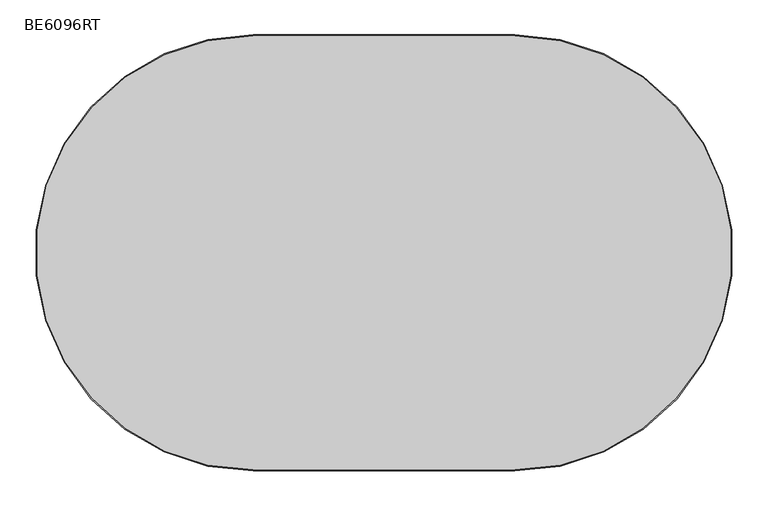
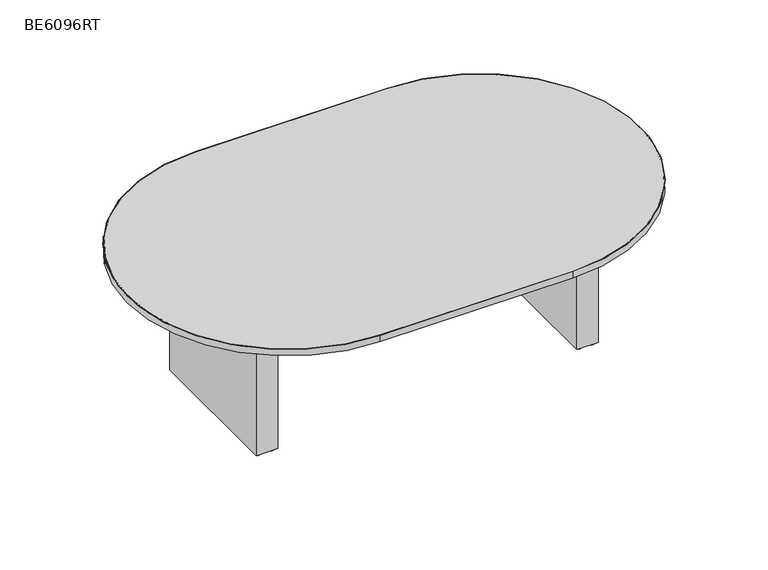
"""IFC4 building model written with IfcOpenShell, lengths in millimetres: furniture geometry, ERG-Beta-Conference_Table-Racetrack : BE6096RT."""

import ifcopenshell
import ifcopenshell.guid

model = None  # the IFC model being written
_history = None  # IfcOwnerHistory: only IFC2X3 demands one
_inside = {}  # id of a spatial element -> (the spatial element, [elements in it])
_under = {}  # id of a project, library or spatial element -> (it, [spatial elements below it])
_declared = {}  # id of a project -> (the project, [libraries it declares])
_typed = {}  # id of a type object -> (the type object, [elements of that type])
_made_of = {}  # id of a material, layer set ... -> (it, [elements and type objects made of it])


def new_model(schema):
    """Start an empty IFC model of exactly this schema.

    Asked for "IFC4X3", IfcOpenShell would pick the latest addendum, in which some entities
    have other attributes; the version numbers below select the first issue.
    IFC2X3 requires an IfcOwnerHistory on every rooted entity: one is made here for all.
    """
    global model, _history
    if schema == "IFC4X3":
        model = ifcopenshell.file(schema_version=(4, 3, 0, 0))
    else:
        model = ifcopenshell.file(schema=schema)
    _inside.clear()
    _under.clear()
    _declared.clear()
    _typed.clear()
    _made_of.clear()
    _history = None
    if model.schema == "IFC2X3":
        org = make("IfcOrganization", Name="unknown")
        user = make(
            "IfcPersonAndOrganization",
            ThePerson=make("IfcPerson", FamilyName="unknown"),
            TheOrganization=org,
        )
        app = make(
            "IfcApplication",
            ApplicationDeveloper=org,
            Version="unknown",
            ApplicationFullName="unknown",
            ApplicationIdentifier="unknown",
        )
        _history = make(
            "IfcOwnerHistory",
            OwningUser=user,
            OwningApplication=app,
            ChangeAction="ADDED",
            CreationDate=0,
        )
    return model


def make(cls, **values):
    """One entity of the class cls with the attributes given. An attribute that is None is left unset."""
    return model.create_entity(
        cls, **{name: value for name, value in values.items() if value is not None}
    )


def rooted(cls, **values):
    """An entity with a GlobalId (a new one), such as an element, a storey or a relation."""
    return make(cls, GlobalId=ifcopenshell.guid.new(), OwnerHistory=_history, **values)


def si_unit(unit_type, name, prefix=None):
    """IfcSIUnit, for example si_unit("LENGTHUNIT", "METRE", prefix="MILLI")."""
    return make("IfcSIUnit", UnitType=unit_type, Prefix=prefix, Name=name)


def assignment(units):
    """IfcUnitAssignment: the units of a project."""
    return None if units is None else make("IfcUnitAssignment", Units=units)


def point(xyz):
    """IfcCartesianPoint."""
    return None if xyz is None else make("IfcCartesianPoint", Coordinates=xyz)


def direction(xyz):
    """IfcDirection."""
    return None if xyz is None else make("IfcDirection", DirectionRatios=xyz)


def frame(location, z_axis=None, x_axis=None):
    """IfcAxis2Placement3D, a coordinate frame: its origin and axes. An axis left out is left unset."""
    return make(
        "IfcAxis2Placement3D",
        Location=point(location),
        Axis=direction(z_axis),
        RefDirection=direction(x_axis),
    )


def frame_2d(location, x_axis=None):
    """IfcAxis2Placement2D, a coordinate frame in the plane: its origin and x axis."""
    return make(
        "IfcAxis2Placement2D", Location=point(location), RefDirection=direction(x_axis)
    )


def origin():
    """The frame at (0, 0, 0) with its axes left unset."""
    return frame((0.0, 0.0, 0.0))


def origin_with_axes():
    """The frame at (0, 0, 0) with the z axis (0, 0, 1) and the x axis (1, 0, 0) written out."""
    return frame((0.0, 0.0, 0.0), z_axis=(0.0, 0.0, 1.0), x_axis=(1.0, 0.0, 0.0))


def place(relative_to, where):
    """IfcLocalPlacement: puts the frame where relative to a parent placement (None: the world)."""
    return make(
        "IfcLocalPlacement", PlacementRelTo=relative_to, RelativePlacement=where
    )


def context(
    kind, dimensions, precision=None, world=None, true_north=None, identifier=None
):
    """IfcGeometricRepresentationContext, for example the 3D "Model" context."""
    return make(
        "IfcGeometricRepresentationContext",
        ContextIdentifier=identifier,
        ContextType=kind,
        CoordinateSpaceDimension=dimensions,
        Precision=precision,
        WorldCoordinateSystem=world,
        TrueNorth=true_north,
    )


def project(units=None, contexts=None):
    """IfcProject with its units and contexts."""
    return rooted(
        "IfcProject",
        Name="project",
        RepresentationContexts=contexts,
        UnitsInContext=assignment(units),
    )


def spatial(cls, under=None, at=None, **own):
    """A site, building, storey or space (cls), placed at a placement, below another one or the project."""
    s = rooted(cls, ObjectPlacement=at, **own)
    if under is not None:
        _under.setdefault(under.id(), (under, []))[1].append(s)
    return s


def polyline(points):
    """IfcPolyline through the points."""
    return make("IfcPolyline", Points=[point(p) for p in points])


def circle_curve(where, radius):
    """IfcCircle in the frame where."""
    return make("IfcCircle", Position=where, Radius=radius)


def trimmed(basis, trim1, trim2, sense, master):
    """IfcTrimmedCurve: the piece of a basis curve between two trims."""
    return make(
        "IfcTrimmedCurve",
        BasisCurve=basis,
        Trim1=trim1,
        Trim2=trim2,
        SenseAgreement=sense,
        MasterRepresentation=master,
    )


def segment(curve, same_sense, transition):
    """IfcCompositeCurveSegment."""
    return make(
        "IfcCompositeCurveSegment",
        Transition=transition,
        SameSense=same_sense,
        ParentCurve=curve,
    )


def composite_curve(segments, self_intersect=None):
    """IfcCompositeCurve: segments joined end to end."""
    return make("IfcCompositeCurve", Segments=segments, SelfIntersect=self_intersect)


def outline(outer, holes=None, kind="AREA"):
    """IfcArbitraryClosedProfileDef: a profile drawn as a closed curve; with holes, ...WithVoids."""
    if holes is None:
        return make("IfcArbitraryClosedProfileDef", ProfileType=kind, OuterCurve=outer)
    return make(
        "IfcArbitraryProfileDefWithVoids",
        ProfileType=kind,
        OuterCurve=outer,
        InnerCurves=holes,
    )


def extrude(swept, where, along, depth):
    """IfcExtrudedAreaSolid: the profile swept, set in the frame where, extruded along a direction by depth."""
    return make(
        "IfcExtrudedAreaSolid",
        SweptArea=swept,
        Position=where,
        ExtrudedDirection=direction(along),
        Depth=depth,
    )


def shape(context_of_items, identifier, shape_type, items):
    """IfcShapeRepresentation: the items that make up one representation, for example the "Body"."""
    return make(
        "IfcShapeRepresentation",
        ContextOfItems=context_of_items,
        RepresentationIdentifier=identifier,
        RepresentationType=shape_type,
        Items=items,
    )


def source(mapping_origin, context_of_items, identifier, shape_type, items):
    """IfcRepresentationMap: a shape defined once, which mapped items show again and again."""
    return make(
        "IfcRepresentationMap",
        MappingOrigin=mapping_origin,
        MappedRepresentation=shape(context_of_items, identifier, shape_type, items),
    )


def transform(
    local_origin,
    x_axis=None,
    y_axis=None,
    z_axis=None,
    scale=None,
    scale2=None,
    scale3=None,
    uniform=True,
):
    """IfcCartesianTransformationOperator3D, or its non-uniform kind. x_axis, y_axis, z_axis: its Axis1, 2, 3."""
    if uniform:
        return make(
            "IfcCartesianTransformationOperator3D",
            Axis1=direction(x_axis),
            Axis2=direction(y_axis),
            LocalOrigin=point(local_origin),
            Scale=scale,
            Axis3=direction(z_axis),
        )
    return make(
        "IfcCartesianTransformationOperator3DnonUniform",
        Axis1=direction(x_axis),
        Axis2=direction(y_axis),
        LocalOrigin=point(local_origin),
        Scale=scale,
        Axis3=direction(z_axis),
        Scale2=scale2,
        Scale3=scale3,
    )


def mapped(mapping_source, mapping_target):
    """IfcMappedItem: shows the shape of a source again, moved by a transform."""
    return make(
        "IfcMappedItem", MappingSource=mapping_source, MappingTarget=mapping_target
    )


def made_of(thing, what):
    """Note that an element or type object is made of a material, layer set ...; save() writes the relation."""
    if what is not None:
        _made_of.setdefault(what.id(), (what, []))[1].append(thing)
    return thing


def element(
    cls,
    number,
    at=None,
    inside=None,
    cuts=None,
    type_object=None,
    material=None,
    context=None,
    identifier="Body",
    shape_type=None,
    held_by="IfcProductDefinitionShape",
    body=None,
    shapes=None,
    **own,
):
    """One element of the class cls, such as IfcWall. Its Tag is "e" and its number.

    at: its placement. inside: the storey or other place that contains it. cuts: it is an
    opening in that element (IfcRelVoidsElement). A single representation is given by context,
    identifier, shape_type and body (its items); several are given by shapes. held_by: the class
    of the entity that holds the representations. save() writes the other relations.
    """
    e = rooted(cls, Tag="e%d" % number, ObjectPlacement=at, **own)
    if body is not None:
        shapes = [shape(context, identifier, shape_type, body)]
    if shapes is not None:
        e.Representation = make(held_by, Representations=shapes)
    if inside is not None:
        _inside.setdefault(inside.id(), (inside, []))[1].append(e)
    if cuts is not None:
        rooted(
            "IfcRelVoidsElement", RelatingBuildingElement=cuts, RelatedOpeningElement=e
        )
    if type_object is not None:
        _typed.setdefault(type_object.id(), (type_object, []))[1].append(e)
    return made_of(e, material)


def aggregate(whole, parts):
    """IfcRelAggregates: a whole, such as a stair, and the parts it consists of."""
    return rooted("IfcRelAggregates", RelatingObject=whole, RelatedObjects=parts)


def save(model, path):
    """Write the relations noted so far, then the file.

    IfcRelAggregates (storeys below a building ...), IfcRelContainedInSpatialStructure (elements
    in a storey), IfcRelDefinesByType, IfcRelAssociatesMaterial and IfcRelDeclares: one each for
    every whole, place, type object, material and project.
    """
    for whole, parts in _under.values():
        aggregate(whole, parts)
    for where, things in _inside.values():
        rooted(
            "IfcRelContainedInSpatialStructure",
            RelatedElements=things,
            RelatingStructure=where,
        )
    for kind, things in _typed.values():
        rooted("IfcRelDefinesByType", RelatedObjects=things, RelatingType=kind)
    for what, things in _made_of.values():
        rooted("IfcRelAssociatesMaterial", RelatedObjects=things, RelatingMaterial=what)
    for by, libraries in _declared.values():
        rooted("IfcRelDeclares", RelatingContext=by, RelatedDefinitions=libraries)
    model.write(path)


def be6096rt_4beb3adf(model_context):
    return source(origin(), model_context, "Body", "SweptSolid", [
        extrude(outline(composite_curve([segment(trimmed(circle_curve(frame_2d((1273.175, 390.276527)), 9.525), [point((1263.65, 390.276527))], [point((1282.7, 390.276527))], False, "CARTESIAN"), True, "CONTINUOUS"), segment(trimmed(circle_curve(frame_2d((1273.175, 390.276527)), 9.525), [point((1282.7, 390.276527))], [point((1263.65, 390.276527))], False, "CARTESIAN"), True, "CONTINUOUS")], self_intersect=False)), origin_with_axes(), (0.0, 0.0, 1.0), 9.525),
        extrude(outline(composite_curve([segment(trimmed(circle_curve(frame_2d((1336.675, 390.276527)), 9.525), [point((1327.15, 390.276527))], [point((1346.2, 390.276527))], False, "CARTESIAN"), True, "CONTINUOUS"), segment(trimmed(circle_curve(frame_2d((1336.675, 390.276527)), 9.525), [point((1346.2, 390.276527))], [point((1327.15, 390.276527))], False, "CARTESIAN"), True, "CONTINUOUS")], self_intersect=False)), origin_with_axes(), (0.0, 0.0, 1.0), 9.525),
        extrude(outline(composite_curve([segment(trimmed(circle_curve(frame_2d((1273.175, -282.823473)), 9.525), [point((1263.65, -282.823473))], [point((1282.7, -282.823473))], False, "CARTESIAN"), True, "CONTINUOUS"), segment(trimmed(circle_curve(frame_2d((1273.175, -282.823473)), 9.525), [point((1282.7, -282.823473))], [point((1263.65, -282.823473))], False, "CARTESIAN"), True, "CONTINUOUS")], self_intersect=False)), origin_with_axes(), (0.0, 0.0, 1.0), 9.525),
        extrude(outline(composite_curve([segment(trimmed(circle_curve(frame_2d((1336.675, -282.823473)), 9.525), [point((1327.15, -282.823473))], [point((1346.2, -282.823473))], False, "CARTESIAN"), True, "CONTINUOUS"), segment(trimmed(circle_curve(frame_2d((1336.675, -282.823473)), 9.525), [point((1346.2, -282.823473))], [point((1327.15, -282.823473))], False, "CARTESIAN"), True, "CONTINUOUS")], self_intersect=False)), origin_with_axes(), (0.0, 0.0, 1.0), 9.525),
        extrude(outline(polyline([(1355.725, 409.326527), (1355.725, -301.873473), (1254.125, -301.873473), (1254.125, 409.326527), (1355.725, 409.326527)])), frame((0.0, 0.0, 9.525), z_axis=(0.0, 0.0, 1.0), x_axis=(1.0, 0.0, 0.0)), (0.0, 0.0, 1.0), 695.3249758),
        extrude(outline(composite_curve([segment(trimmed(circle_curve(frame_2d((-250.825, 390.276527)), 9.525), [point((-260.35, 390.276527))], [point((-241.3, 390.276527))], False, "CARTESIAN"), True, "CONTINUOUS"), segment(trimmed(circle_curve(frame_2d((-250.825, 390.276527)), 9.525), [point((-241.3, 390.276527))], [point((-260.35, 390.276527))], False, "CARTESIAN"), True, "CONTINUOUS")], self_intersect=False)), origin_with_axes(), (0.0, 0.0, 1.0), 9.525),
        extrude(outline(composite_curve([segment(trimmed(circle_curve(frame_2d((-187.325, 390.276527)), 9.525), [point((-196.85, 390.276527))], [point((-177.8, 390.276527))], False, "CARTESIAN"), True, "CONTINUOUS"), segment(trimmed(circle_curve(frame_2d((-187.325, 390.276527)), 9.525), [point((-177.8, 390.276527))], [point((-196.85, 390.276527))], False, "CARTESIAN"), True, "CONTINUOUS")], self_intersect=False)), origin_with_axes(), (0.0, 0.0, 1.0), 9.525),
        extrude(outline(composite_curve([segment(trimmed(circle_curve(frame_2d((-250.825, -282.823473)), 9.525), [point((-260.35, -282.823473))], [point((-241.3, -282.823473))], False, "CARTESIAN"), True, "CONTINUOUS"), segment(trimmed(circle_curve(frame_2d((-250.825, -282.823473)), 9.525), [point((-241.3, -282.823473))], [point((-260.35, -282.823473))], False, "CARTESIAN"), True, "CONTINUOUS")], self_intersect=False)), origin_with_axes(), (0.0, 0.0, 1.0), 9.525),
        extrude(outline(composite_curve([segment(trimmed(circle_curve(frame_2d((-187.325, -282.823473)), 9.525), [point((-196.85, -282.823473))], [point((-177.8, -282.823473))], False, "CARTESIAN"), True, "CONTINUOUS"), segment(trimmed(circle_curve(frame_2d((-187.325, -282.823473)), 9.525), [point((-177.8, -282.823473))], [point((-196.85, -282.823473))], False, "CARTESIAN"), True, "CONTINUOUS")], self_intersect=False)), origin_with_axes(), (0.0, 0.0, 1.0), 9.525),
        extrude(outline(polyline([(-168.275, 409.326527), (-168.275, -301.873473), (-269.875, -301.873473), (-269.875, 409.326527), (-168.275, 409.326527)])), frame((0.0, 0.0, 9.525), z_axis=(0.0, 0.0, 1.0), x_axis=(1.0, 0.0, 0.0)), (0.0, 0.0, 1.0), 695.3249758),
        extrude(outline(composite_curve([segment(polyline([(1000.125, -705.098473), (85.725, -705.098473)]), True, "CONTINUOUS"), segment(trimmed(circle_curve(frame_2d((85.725, 53.726527)), 758.825), [point((85.725, -705.098473))], [point((85.725, 812.551527))], False, "CARTESIAN"), True, "CONTINUOUS"), segment(polyline([(85.725, 812.551527), (1000.125, 812.551527)]), True, "CONTINUOUS"), segment(trimmed(circle_curve(frame_2d((1000.125, 53.726527)), 758.825), [point((1000.125, 812.551527))], [point((1000.125, -705.098473))], False, "CARTESIAN"), True, "CONTINUOUS")], self_intersect=False)), frame((0.0, 0.0, 704.85), z_axis=(0.0, 0.0, 1.0), x_axis=(1.0, 0.0, 0.0)), (0.0, 0.0, 1.0), 31.75),
        extrude(outline(composite_curve([segment(polyline([(85.725, 815.726527), (1000.125, 815.726527)]), True, "CONTINUOUS"), segment(trimmed(circle_curve(frame_2d((1000.125, 53.726527)), 762.0), [point((1000.125, 815.726527))], [point((1000.125, -708.273473))], False, "CARTESIAN"), True, "CONTINUOUS"), segment(polyline([(1000.125, -708.273473), (85.725, -708.273473)]), True, "CONTINUOUS"), segment(trimmed(circle_curve(frame_2d((85.725, 53.726527)), 762.0), [point((85.725, -708.273473))], [point((85.725, 815.726527))], False, "CARTESIAN"), True, "CONTINUOUS")], self_intersect=False), holes=[composite_curve([segment(trimmed(circle_curve(frame_2d((85.725, 53.726527)), 758.825), [point((85.725, 812.551527))], [point((85.725, -705.098473))], True, "CARTESIAN"), True, "CONTINUOUS"), segment(polyline([(85.725, -705.098473), (1000.125, -705.098473)]), True, "CONTINUOUS"), segment(trimmed(circle_curve(frame_2d((1000.125, 53.726527)), 758.825), [point((1000.125, -705.098473))], [point((1000.125, 812.551527))], True, "CARTESIAN"), True, "CONTINUOUS"), segment(polyline([(1000.125, 812.551527), (85.725, 812.551527)]), True, "CONTINUOUS")], self_intersect=False)]), frame((0.0, 0.0, 704.85), z_axis=(0.0, 0.0, 1.0), x_axis=(1.0, 0.0, 0.0)), (0.0, 0.0, 1.0), 31.75),
    ])


if __name__ == "__main__":
    model = new_model("IFC4")
    model_context = context("Model", 3, world=origin())
    ifc_project = project(units=[si_unit("LENGTHUNIT", "METRE", prefix="MILLI")], contexts=[model_context])
    site = spatial("IfcSite", under=ifc_project)
    building = spatial("IfcBuilding", under=site)
    placement = place(None, origin())
    be6096rt_shape = be6096rt_4beb3adf(model_context)
    element("IfcFurniture", 1, ObjectType="ERG-Beta-Conference_Table-Racetrack : BE6096RT", at=placement, inside=building, context=model_context, shape_type="MappedRepresentation", body=[
        mapped(be6096rt_shape, transform((0.0, 0.0, 0.0), x_axis=(1.0, 0.0, 0.0), y_axis=(0.0, 1.0, 0.0), z_axis=(0.0, 0.0, 1.0))),
    ])
    save(model, "model.ifc")
